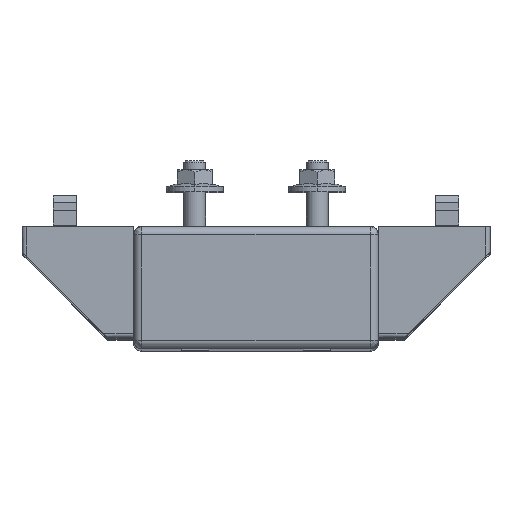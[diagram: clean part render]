
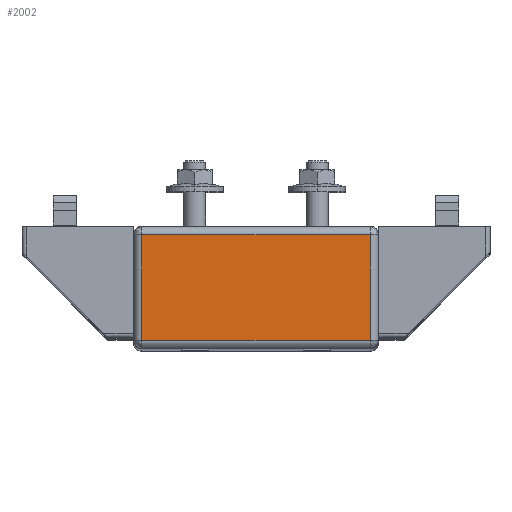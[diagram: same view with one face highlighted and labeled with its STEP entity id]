
A CAD part, top view. The second image highlights one B-rep face of the part: STEP entity #2002.
In plain terms, the highlighted planar face has unit normal (0, 0, 1).
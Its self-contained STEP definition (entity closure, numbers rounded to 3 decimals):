
#178 = VERTEX_POINT ( 'NONE', #1790 ) ;
#1790 = CARTESIAN_POINT ( 'NONE',  ( 41.923, -3.077, 247.5 ) ) ;
#1827 = VERTEX_POINT ( 'NONE', #9623 ) ;
#2002 = ADVANCED_FACE ( 'NONE', ( #6691 ), #13936, .F. ) ;
#3750 = DIRECTION ( 'NONE',  ( 1., 0., 0. ) ) ;
#3987 = ORIENTED_EDGE ( 'NONE', *, *, #14866, .F. ) ;
#4028 = VERTEX_POINT ( 'NONE', #9210 ) ;
#4361 = DIRECTION ( 'NONE',  ( 0., 1., 0. ) ) ;
#4476 = LINE ( 'NONE', #13691, #20387 ) ;
#4895 = ORIENTED_EDGE ( 'NONE', *, *, #6762, .F. ) ;
#5484 = CARTESIAN_POINT ( 'NONE',  ( 0., -3.077, 247.5 ) ) ;
#6691 = FACE_OUTER_BOUND ( 'NONE', #19861, .T. ) ;
#6762 = EDGE_CURVE ( 'NONE', #1827, #16453, #4476, .T. ) ;
#7394 = DIRECTION ( 'NONE',  ( 0., 1., 0. ) ) ;
#8502 = LINE ( 'NONE', #21523, #14220 ) ;
#8569 = DIRECTION ( 'NONE',  ( -1., 0., 0. ) ) ;
#8928 = VECTOR ( 'NONE', #3750, 1000. ) ;
#9210 = CARTESIAN_POINT ( 'NONE',  ( 41.923, -41.923, 247.5 ) ) ;
#9623 = CARTESIAN_POINT ( 'NONE',  ( -41.923, -41.923, 247.5 ) ) ;
#9746 = VECTOR ( 'NONE', #8569, 1000. ) ;
#10656 = ORIENTED_EDGE ( 'NONE', *, *, #19017, .F. ) ;
#11014 = LINE ( 'NONE', #5484, #8928 ) ;
#11049 = EDGE_CURVE ( 'NONE', #4028, #1827, #21957, .T. ) ;
#13691 = CARTESIAN_POINT ( 'NONE',  ( -41.923, -22.5, 247.5 ) ) ;
#13790 = CARTESIAN_POINT ( 'NONE',  ( -41.923, -3.077, 247.5 ) ) ;
#13936 = PLANE ( 'NONE',  #20215 ) ;
#14220 = VECTOR ( 'NONE', #21405, 1000. ) ;
#14866 = EDGE_CURVE ( 'NONE', #178, #4028, #8502, .T. ) ;
#16453 = VERTEX_POINT ( 'NONE', #13790 ) ;
#19017 = EDGE_CURVE ( 'NONE', #16453, #178, #11014, .T. ) ;
#19634 = CARTESIAN_POINT ( 'NONE',  ( 0., -41.923, 247.5 ) ) ;
#19839 = CARTESIAN_POINT ( 'NONE',  ( 0., -22.5, 247.5 ) ) ;
#19861 = EDGE_LOOP ( 'NONE', ( #3987, #10656, #4895, #22462 ) ) ;
#20215 = AXIS2_PLACEMENT_3D ( 'NONE', #19839, #21438, #7394 ) ;
#20387 = VECTOR ( 'NONE', #4361, 1000. ) ;
#21405 = DIRECTION ( 'NONE',  ( 0., -1., 0. ) ) ;
#21438 = DIRECTION ( 'NONE',  ( 0., 0., -1. ) ) ;
#21523 = CARTESIAN_POINT ( 'NONE',  ( 41.923, -22.5, 247.5 ) ) ;
#21957 = LINE ( 'NONE', #19634, #9746 ) ;
#22462 = ORIENTED_EDGE ( 'NONE', *, *, #11049, .F. ) ;
